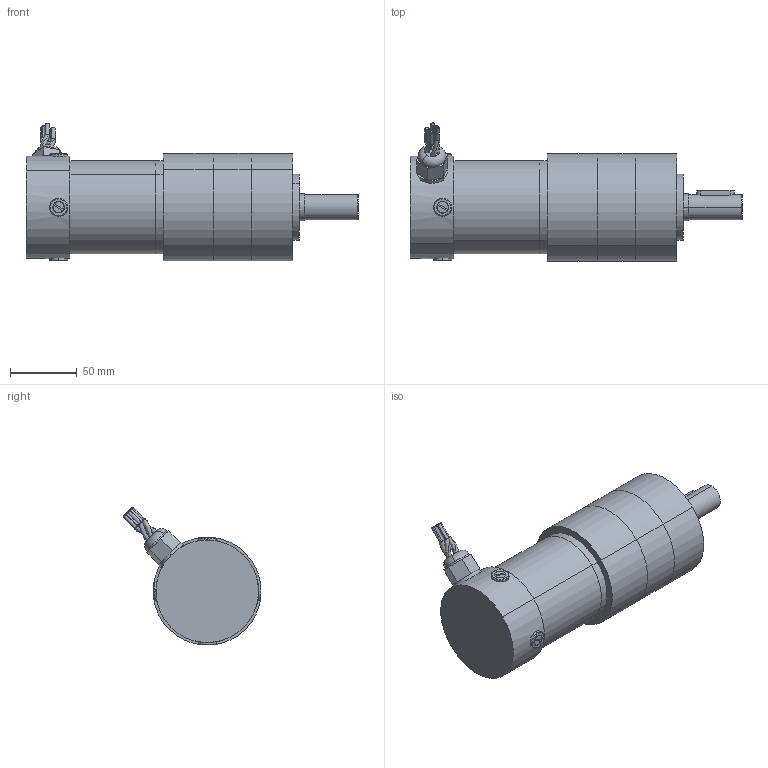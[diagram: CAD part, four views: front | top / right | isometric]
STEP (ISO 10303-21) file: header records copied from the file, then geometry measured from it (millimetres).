
FILE_DESCRIPTION (( 'STEP AP203' ), '1' );
FILE_NAME ('s27411agp1.step', '2018-12-07T20:01:21', ( '' ), ( '' ), 'SwSTEP 2.0', 'SolidWorks 2017', '' );
FILE_SCHEMA (( 'CONFIG_CONTROL_DESIGN' ));
Length unit declared in the file: inch
Products named in the file (1): s27411agp1
Bounding box: 249.17 x 103.56 x 103.56 mm (x, y, z)
Volume: 958784.2 mm3; surface area: 142250.9 mm2
Topology: 21 solids, 21 shells, 487 faces, 1060 edges, 647 vertices
Faces by surface type: plane 220, cylinder 175, cone 45, torus 31, bspline 8, sphere 8
Entity records: 14287 total; most frequent: CARTESIAN_POINT 3308, DIRECTION 2503, ORIENTED_EDGE 2088, EDGE_CURVE 1044, AXIS2_PLACEMENT_3D 1025, VERTEX_POINT 647, EDGE_LOOP 555, CIRCLE 545
